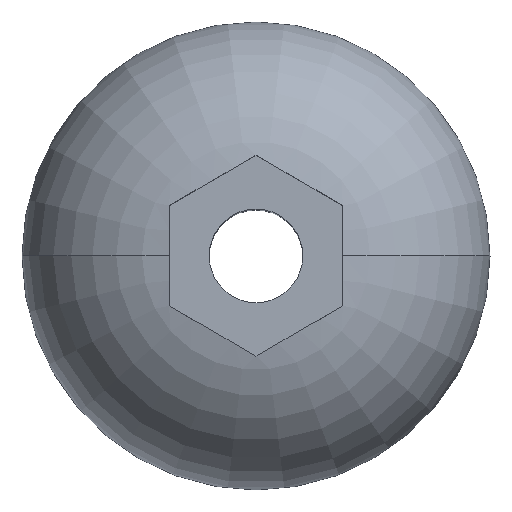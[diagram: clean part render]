
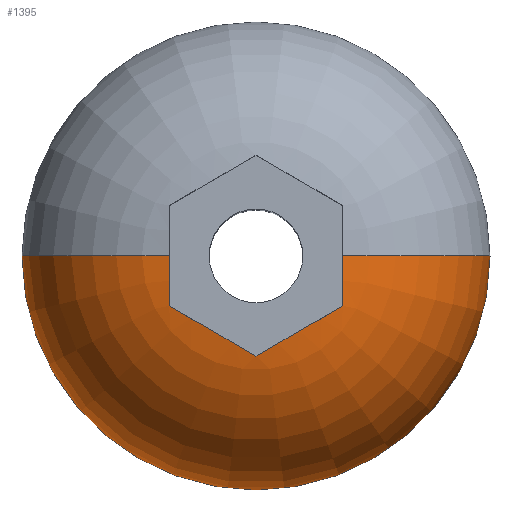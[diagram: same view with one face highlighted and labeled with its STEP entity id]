
A CAD part, top view. The second image highlights one B-rep face of the part: STEP entity #1395.
In plain terms, the highlighted toroidal (fillet/blend) face has major radius 0.501 mm and minor radius 1.25 mm.
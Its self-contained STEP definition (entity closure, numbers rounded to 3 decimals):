
#1 = DIRECTION ( 'NONE',  ( 0., 0., 1. ) ) ;
#24 = CARTESIAN_POINT ( 'NONE',  ( 0.65, -0.375, 1.275 ) ) ;
#44 = DIRECTION ( 'NONE',  ( 1., 0., 0. ) ) ;
#64 = CARTESIAN_POINT ( 'NONE',  ( -0.108, -0.688, 1.288 ) ) ;
#96 = CARTESIAN_POINT ( 'NONE',  ( -0.65, -0.063, 1.291 ) ) ;
#102 = EDGE_CURVE ( 'NONE', #896, #1041, #809, .T. ) ;
#107 = CARTESIAN_POINT ( 'NONE',  ( -0.65, -0.125, 1.29 ) ) ;
#114 = CARTESIAN_POINT ( 'NONE',  ( -0.65, -0.251, 1.285 ) ) ;
#139 = DIRECTION ( 'NONE',  ( 0., 1., 0. ) ) ;
#164 = CIRCLE ( 'NONE', #233, 1.75 ) ;
#170 = CARTESIAN_POINT ( 'NONE',  ( 0., 0., 0.05 ) ) ;
#174 = CARTESIAN_POINT ( 'NONE',  ( 0., -0.751, 1.275 ) ) ;
#193 = TOROIDAL_SURFACE ( 'NONE', #1353, 0.501, 1.25 ) ;
#194 = CARTESIAN_POINT ( 'NONE',  ( 0.501, 0., 0.05 ) ) ;
#211 = DIRECTION ( 'NONE',  ( 0., -1., 0. ) ) ;
#212 = ORIENTED_EDGE ( 'NONE', *, *, #1024, .T. ) ;
#233 = AXIS2_PLACEMENT_3D ( 'NONE', #682, #1, #1011 ) ;
#251 = CIRCLE ( 'NONE', #679, 1.25 ) ;
#263 = DIRECTION ( 'NONE',  ( 0., 0., 1. ) ) ;
#345 = ORIENTED_EDGE ( 'NONE', *, *, #102, .T. ) ;
#381 = CARTESIAN_POINT ( 'NONE',  ( 0.65, -0.375, 1.275 ) ) ;
#399 = EDGE_CURVE ( 'NONE', #1092, #964, #781, .T. ) ;
#426 = ORIENTED_EDGE ( 'NONE', *, *, #1146, .F. ) ;
#442 = CARTESIAN_POINT ( 'NONE',  ( 0., -0.751, 1.275 ) ) ;
#446 = B_SPLINE_CURVE_WITH_KNOTS ( 'NONE', 3,
 ( #174, #64, #814, #492, #1173 ),
 .UNSPECIFIED., .F., .F.,
 ( 4, 1, 4 ),
 ( 0., 0., 0.001 ),
 .UNSPECIFIED. ) ;
#458 = CARTESIAN_POINT ( 'NONE',  ( -0.501, 0., 0.05 ) ) ;
#492 = CARTESIAN_POINT ( 'NONE',  ( -0.542, -0.438, 1.288 ) ) ;
#498 = CARTESIAN_POINT ( 'NONE',  ( -1.75, 0., 0. ) ) ;
#511 = B_SPLINE_CURVE_WITH_KNOTS ( 'NONE', 3,
 ( #1062, #1261, #1375, #1050, #947, #381 ),
 .UNSPECIFIED., .F., .F.,
 ( 4, 2, 4 ),
 ( 0., 0., 0. ),
 .UNSPECIFIED. ) ;
#541 = FACE_OUTER_BOUND ( 'NONE', #935, .T. ) ;
#563 = B_SPLINE_CURVE_WITH_KNOTS ( 'NONE', 3,
 ( #1102, #753, #114, #107, #96, #1444 ),
 .UNSPECIFIED., .F., .F.,
 ( 4, 2, 4 ),
 ( 0.009, 0.009, 0.009 ),
 .UNSPECIFIED. ) ;
#651 = VERTEX_POINT ( 'NONE', #1077 ) ;
#679 = AXIS2_PLACEMENT_3D ( 'NONE', #458, #139, #794 ) ;
#682 = CARTESIAN_POINT ( 'NONE',  ( 0., 0., 0. ) ) ;
#712 = AXIS2_PLACEMENT_3D ( 'NONE', #194, #211, #976 ) ;
#715 = CARTESIAN_POINT ( 'NONE',  ( 1.75, 0., 0. ) ) ;
#753 = CARTESIAN_POINT ( 'NONE',  ( -0.65, -0.313, 1.281 ) ) ;
#774 = CARTESIAN_POINT ( 'NONE',  ( 0.65, -0.375, 1.275 ) ) ;
#779 = CARTESIAN_POINT ( 'NONE',  ( 0.65, 0., 1.291 ) ) ;
#781 = B_SPLINE_CURVE_WITH_KNOTS ( 'NONE', 3,
 ( #774, #1312, #883, #1199, #1105 ),
 .UNSPECIFIED., .F., .F.,
 ( 4, 1, 4 ),
 ( 0., 0., 0.001 ),
 .UNSPECIFIED. ) ;
#794 = DIRECTION ( 'NONE',  ( -1., 0., 0. ) ) ;
#809 = CIRCLE ( 'NONE', #712, 1.25 ) ;
#813 = ORIENTED_EDGE ( 'NONE', *, *, #1346, .T. ) ;
#814 = CARTESIAN_POINT ( 'NONE',  ( -0.325, -0.563, 1.295 ) ) ;
#825 = VERTEX_POINT ( 'NONE', #498 ) ;
#867 = ORIENTED_EDGE ( 'NONE', *, *, #1074, .T. ) ;
#883 = CARTESIAN_POINT ( 'NONE',  ( 0.325, -0.563, 1.295 ) ) ;
#896 = VERTEX_POINT ( 'NONE', #715 ) ;
#935 = EDGE_LOOP ( 'NONE', ( #426, #867, #345, #1015, #1151, #813, #212 ) ) ;
#947 = CARTESIAN_POINT ( 'NONE',  ( 0.65, -0.313, 1.281 ) ) ;
#964 = VERTEX_POINT ( 'NONE', #442 ) ;
#976 = DIRECTION ( 'NONE',  ( 0., 0., -1. ) ) ;
#1011 = DIRECTION ( 'NONE',  ( 1., 0., 0. ) ) ;
#1015 = ORIENTED_EDGE ( 'NONE', *, *, #1386, .T. ) ;
#1024 = EDGE_CURVE ( 'NONE', #1206, #651, #563, .T. ) ;
#1041 = VERTEX_POINT ( 'NONE', #779 ) ;
#1050 = CARTESIAN_POINT ( 'NONE',  ( 0.65, -0.251, 1.285 ) ) ;
#1062 = CARTESIAN_POINT ( 'NONE',  ( 0.65, 0., 1.291 ) ) ;
#1074 = EDGE_CURVE ( 'NONE', #825, #896, #164, .T. ) ;
#1077 = CARTESIAN_POINT ( 'NONE',  ( -0.65, 0., 1.291 ) ) ;
#1092 = VERTEX_POINT ( 'NONE', #24 ) ;
#1102 = CARTESIAN_POINT ( 'NONE',  ( -0.65, -0.375, 1.275 ) ) ;
#1105 = CARTESIAN_POINT ( 'NONE',  ( 0., -0.751, 1.275 ) ) ;
#1146 = EDGE_CURVE ( 'NONE', #825, #651, #251, .T. ) ;
#1151 = ORIENTED_EDGE ( 'NONE', *, *, #399, .T. ) ;
#1173 = CARTESIAN_POINT ( 'NONE',  ( -0.65, -0.375, 1.275 ) ) ;
#1199 = CARTESIAN_POINT ( 'NONE',  ( 0.108, -0.688, 1.288 ) ) ;
#1206 = VERTEX_POINT ( 'NONE', #1248 ) ;
#1248 = CARTESIAN_POINT ( 'NONE',  ( -0.65, -0.375, 1.275 ) ) ;
#1261 = CARTESIAN_POINT ( 'NONE',  ( 0.65, -0.063, 1.291 ) ) ;
#1312 = CARTESIAN_POINT ( 'NONE',  ( 0.542, -0.438, 1.288 ) ) ;
#1346 = EDGE_CURVE ( 'NONE', #964, #1206, #446, .T. ) ;
#1353 = AXIS2_PLACEMENT_3D ( 'NONE', #170, #263, #44 ) ;
#1375 = CARTESIAN_POINT ( 'NONE',  ( 0.65, -0.126, 1.29 ) ) ;
#1386 = EDGE_CURVE ( 'NONE', #1041, #1092, #511, .T. ) ;
#1395 = ADVANCED_FACE ( 'NONE', ( #541 ), #193, .T. ) ;
#1444 = CARTESIAN_POINT ( 'NONE',  ( -0.65, 0., 1.291 ) ) ;
